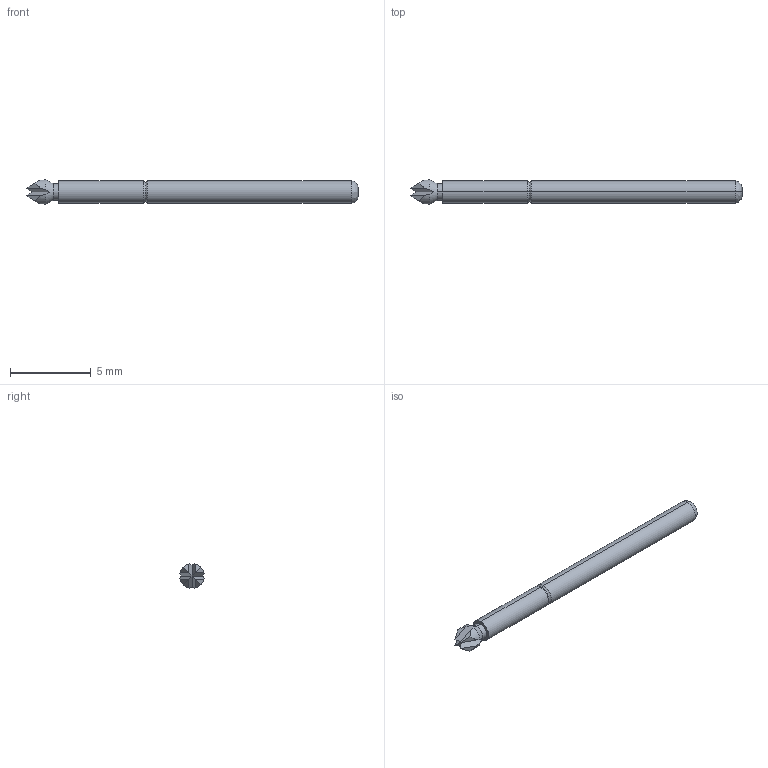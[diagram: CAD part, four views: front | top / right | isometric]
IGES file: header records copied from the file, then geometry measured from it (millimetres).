
Start section: SolidWorks IGES file using analytic representation for surfaces
Global section: file name: Z:\probe solid model mockups\Solidworks models\IGES Files\EPA-2\EPA-2X Full.IGS; native system: SolidWorks 2006 by SolidWorks Corporation; preprocessor: SolidWorks 2006 by SolidWorks Corporation; author: tsakatani; date: 071220.162530; units: inch
Bounding box: 20.57 x 1.5 x 1.5 mm (x, y, z)
Surface area: 91.6 mm2 (no closed solid volume)
Topology: 0 solids, 0 shells, 36 faces, 214 edges, 214 vertices
Faces by surface type: bspline 24, revolution 12
